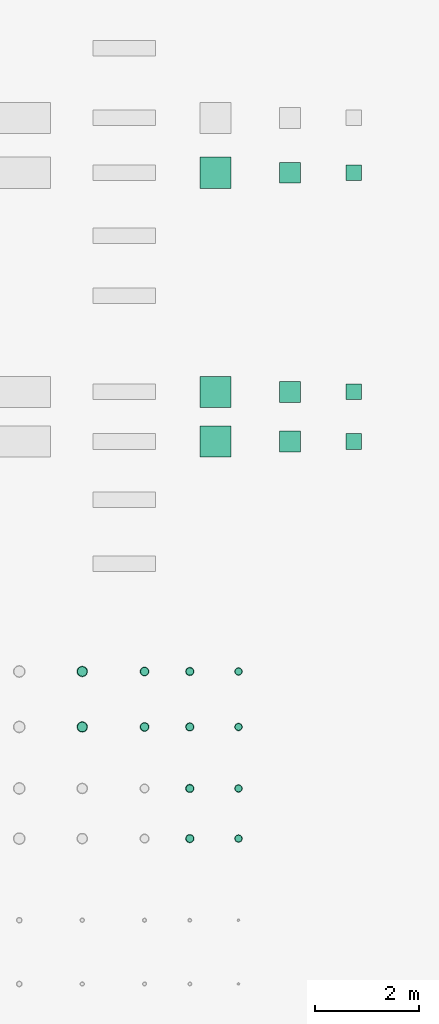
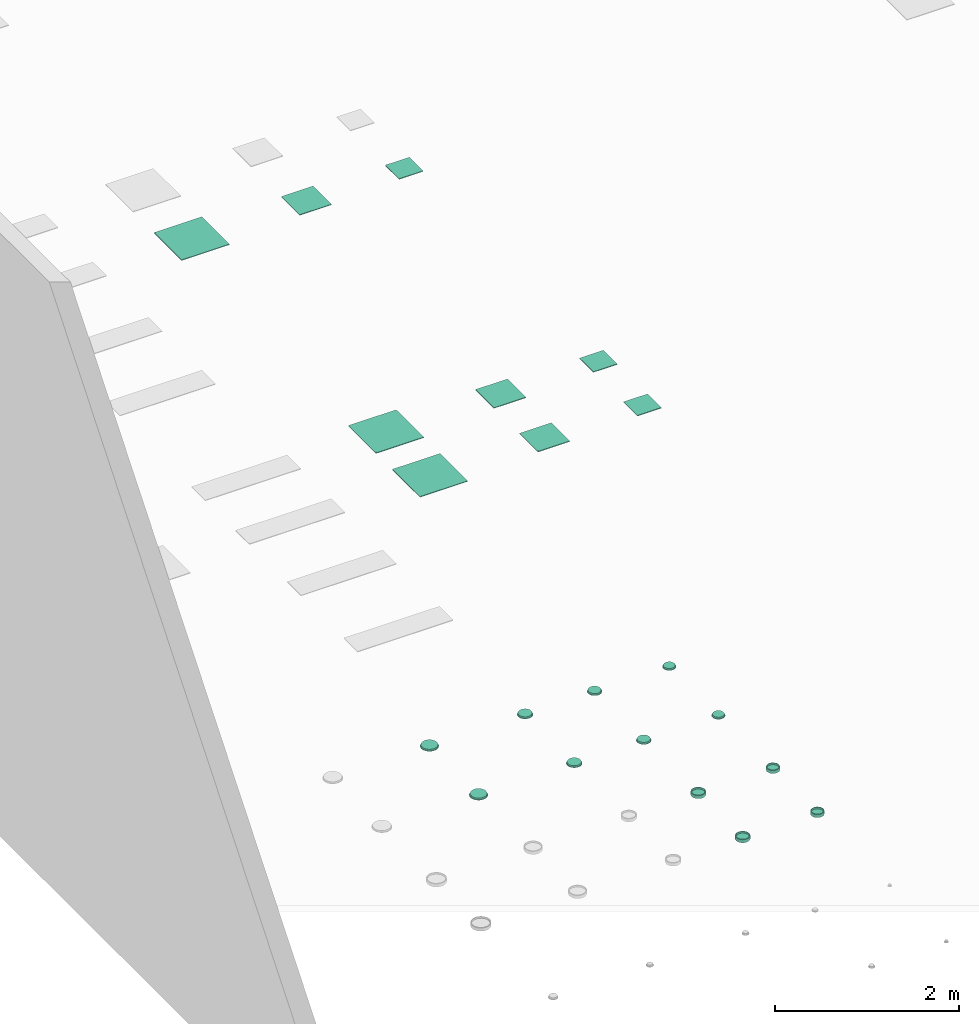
# One storey, part 18 of 197: 21 flow terminals.
"""IFC2X3 building model written with IfcOpenShell, lengths in metres."""

from ifc_helpers import new_model, entity, si_unit, converted_unit, direction, frame, frame_2d, origin, origin_2d_with_axis, place, context, subcontext, project, spatial, polyline, rectangle, circle, hollow_circle, outline, extrude, source, transform, mapped, material, type_object, type_shapes, element, save


model = new_model("IFC2X3")

# Units and contexts
model_context = context("Model", 3, precision=1e-05, world=origin(), true_north=direction((6.123031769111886e-17, 1.0)))
body_context = subcontext(model_context, "Body", "Model", "MODEL_VIEW")
ifc_project = project(units=[si_unit("LENGTHUNIT", "METRE"), converted_unit("PLANEANGLEUNIT", "DEGREE", entity("IfcPlaneAngleMeasure", 0.017453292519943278), si_unit("PLANEANGLEUNIT", "RADIAN"), dimensions=[0, 0, 0, 0, 0, 0, 0]), si_unit("AREAUNIT", "SQUARE_METRE")], contexts=[model_context])

# Site, building, storey
site_placement = place(None, origin())
site = spatial("IfcSite", under=ifc_project, at=site_placement, Name="Default", CompositionType="ELEMENT")
building_placement = place(site_placement, origin())
building = spatial("IfcBuilding", under=site, at=building_placement, CompositionType="ELEMENT")
storey_placement = place(building_placement, origin())
storey = spatial("IfcBuildingStorey", under=building, at=storey_placement, Name="Niveau 0", CompositionType="ELEMENT", Elevation=0.0)

# Flow terminals
ifc_material = material(Name="<Unnamed>")
light_fixture_type_1 = type_object("IfcLightFixtureType", Name="Pavé LED encastré_saillie_suspendu:SAILLIE DALI - 300X300", PredefinedType="NOTDEFINED", material=ifc_material)
shared_shape_1 = source(origin(), body_context, "Body", "SweptSolid", [
    extrude(rectangle(XDim=0.26000000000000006, YDim=0.26, at=origin_2d_with_axis()), frame((0.0, 0.0, 1.5013367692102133), z_axis=(0.0, 0.0, 1.0), x_axis=(-1.0, 0.0, 0.0)), (0.0, 0.0, 1.0), 0.008663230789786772),
    extrude(outline(polyline([(-0.15000000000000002, -0.15), (0.15000000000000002, -0.15), (0.15000000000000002, 0.15), (-0.15000000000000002, 0.15), (-0.15000000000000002, -0.15)]), holes=[polyline([(0.13000000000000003, -0.13), (-0.13000000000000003, -0.13), (-0.13000000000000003, 0.13), (0.13000000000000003, 0.13), (0.13000000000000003, -0.13)])]), frame((0.0, 0.0, 1.499999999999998), z_axis=(0.0, 0.0, 1.0), x_axis=(-1.0, 0.0, 0.0)), (0.0, 0.0, 1.0), 0.010000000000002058),
    extrude(circle(Radius=0.0014999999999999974, at=origin_2d_with_axis()), frame((0.1399999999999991, -0.14000000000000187, 1.51)), (0.0, 0.0, 1.0), 0.0010000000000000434),
    extrude(circle(Radius=0.0014999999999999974, at=origin_2d_with_axis()), frame((0.1399999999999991, 0.13999999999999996, 1.51)), (0.0, 0.0, 1.0), 0.0010000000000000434),
    extrude(circle(Radius=0.0014999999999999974, at=origin_2d_with_axis()), frame((-0.14000000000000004, 0.13999999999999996, 1.51)), (0.0, 0.0, 1.0), 0.0010000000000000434),
    extrude(circle(Radius=0.0014999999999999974, at=origin_2d_with_axis()), frame((-0.14000000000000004, -0.14000000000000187, 1.51)), (0.0, 0.0, 1.0), 0.0010000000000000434),
])
type_shapes(light_fixture_type_1, [shared_shape_1])
flow_terminal_1_placement = place(storey_placement, frame((-531.5807105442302, 41.83535524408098, 0.0)))
element("IfcFlowTerminal", 1, at=flow_terminal_1_placement, inside=storey, type_object=light_fixture_type_1, material=ifc_material, Name="Pavé LED encastré_saillie_suspendu:SAILLIE DALI - 300X300", ObjectType="Pavé LED encastré_saillie_suspendu:SAILLIE DALI - 300X300", context=body_context, shape_type="MappedRepresentation", body=[
    mapped(shared_shape_1, transform((0.0, 0.0, 0.0), scale=1.0)),
])
light_fixture_type_2 = type_object("IfcLightFixtureType", Name="Pavé LED encastré_saillie_suspendu:SAILLIE DALI - 400X400", PredefinedType="NOTDEFINED", material=ifc_material)
shared_shape_2 = source(origin(), body_context, "Body", "SweptSolid", [
    extrude(rectangle(XDim=0.36, YDim=0.36, at=origin_2d_with_axis()), frame((0.0, 0.0, 1.5013367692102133), z_axis=(0.0, 0.0, 1.0), x_axis=(-1.0, 0.0, 0.0)), (0.0, 0.0, 1.0), 0.008663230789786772),
    extrude(outline(polyline([(-0.19999999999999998, -0.19999999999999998), (0.19999999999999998, -0.19999999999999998), (0.19999999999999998, 0.19999999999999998), (-0.19999999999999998, 0.19999999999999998), (-0.19999999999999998, -0.19999999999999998)]), holes=[polyline([(0.18, -0.18), (-0.18, -0.18), (-0.18, 0.18), (0.18, 0.18), (0.18, -0.18)])]), frame((0.0, 0.0, 1.499999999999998), z_axis=(0.0, 0.0, 1.0), x_axis=(-1.0, 0.0, 0.0)), (0.0, 0.0, 1.0), 0.010000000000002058),
    extrude(circle(Radius=0.0014999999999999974, at=origin_2d_with_axis()), frame((0.1899999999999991, -0.19000000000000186, 1.51)), (0.0, 0.0, 1.0), 0.0010000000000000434),
    extrude(circle(Radius=0.0014999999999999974, at=origin_2d_with_axis()), frame((0.1899999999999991, 0.18999999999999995, 1.51)), (0.0, 0.0, 1.0), 0.0010000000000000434),
    extrude(circle(Radius=0.0014999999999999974, at=origin_2d_with_axis()), frame((-0.19000000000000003, 0.18999999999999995, 1.51)), (0.0, 0.0, 1.0), 0.0010000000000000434),
    extrude(circle(Radius=0.0014999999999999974, at=origin_2d_with_axis()), frame((-0.19000000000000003, -0.19000000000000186, 1.51)), (0.0, 0.0, 1.0), 0.0010000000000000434),
])
type_shapes(light_fixture_type_2, [shared_shape_2])
flow_terminal_2_placement = place(storey_placement, frame((-532.8067105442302, 41.83535524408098, 0.0)))
element("IfcFlowTerminal", 2, at=flow_terminal_2_placement, inside=storey, type_object=light_fixture_type_2, material=ifc_material, Name="Pavé LED encastré_saillie_suspendu:SAILLIE DALI - 400X400", ObjectType="Pavé LED encastré_saillie_suspendu:SAILLIE DALI - 400X400", context=body_context, shape_type="MappedRepresentation", body=[
    mapped(shared_shape_2, transform((0.0, 0.0, 0.0), scale=1.0)),
])
light_fixture_type_3 = type_object("IfcLightFixtureType", Name="Pavé LED encastré_saillie_suspendu:SAILLIE DALI - 600X600", PredefinedType="NOTDEFINED", material=ifc_material)
shared_shape_3 = source(origin(), body_context, "Body", "SweptSolid", [
    extrude(rectangle(XDim=0.56, YDim=0.56, at=origin_2d_with_axis()), frame((0.0, 0.0, 1.5013367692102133), z_axis=(0.0, 0.0, 1.0), x_axis=(-1.0, 0.0, 0.0)), (0.0, 0.0, 1.0), 0.008663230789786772),
    extrude(outline(polyline([(-0.30000000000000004, -0.30000000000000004), (0.30000000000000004, -0.30000000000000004), (0.30000000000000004, 0.30000000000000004), (-0.30000000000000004, 0.30000000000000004), (-0.30000000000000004, -0.30000000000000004)]), holes=[polyline([(0.28, -0.28), (-0.28, -0.28), (-0.28, 0.28), (0.28, 0.28), (0.28, -0.28)])]), frame((0.0, 0.0, 1.499999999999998), z_axis=(0.0, 0.0, 1.0), x_axis=(-1.0, 0.0, 0.0)), (0.0, 0.0, 1.0), 0.010000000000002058),
    extrude(circle(Radius=0.0014999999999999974, at=origin_2d_with_axis()), frame((0.28999999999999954, -0.2900000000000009, 1.51)), (0.0, 0.0, 1.0), 0.0010000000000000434),
    extrude(circle(Radius=0.0014999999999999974, at=origin_2d_with_axis()), frame((0.28999999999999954, 0.2900000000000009, 1.51)), (0.0, 0.0, 1.0), 0.0010000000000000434),
    extrude(circle(Radius=0.0014999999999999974, at=origin_2d_with_axis()), frame((-0.28999999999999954, 0.2900000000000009, 1.51)), (0.0, 0.0, 1.0), 0.0010000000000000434),
    extrude(circle(Radius=0.0014999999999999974, at=origin_2d_with_axis()), frame((-0.28999999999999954, -0.2900000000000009, 1.51)), (0.0, 0.0, 1.0), 0.0010000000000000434),
])
type_shapes(light_fixture_type_3, [shared_shape_3])
flow_terminal_3_placement = place(storey_placement, frame((-534.2447105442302, 41.83535524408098, 0.0)))
element("IfcFlowTerminal", 3, at=flow_terminal_3_placement, inside=storey, type_object=light_fixture_type_3, material=ifc_material, Name="Pavé LED encastré_saillie_suspendu:SAILLIE DALI - 600X600", ObjectType="Pavé LED encastré_saillie_suspendu:SAILLIE DALI - 600X600", context=body_context, shape_type="MappedRepresentation", body=[
    mapped(shared_shape_3, transform((0.0, 0.0, 0.0), scale=1.0)),
])
light_fixture_type_4 = type_object("IfcLightFixtureType", Name="Pavé LED encastré_saillie_suspendu:SUSPENDU - 300X300", PredefinedType="NOTDEFINED", material=ifc_material)
shared_shape_4 = source(origin(), body_context, "Body", "SweptSolid", [
    extrude(rectangle(XDim=0.26000000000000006, YDim=0.26, at=origin_2d_with_axis()), frame((0.0, 0.0, 1.5013367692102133), z_axis=(0.0, 0.0, 1.0), x_axis=(-1.0, 0.0, 0.0)), (0.0, 0.0, 1.0), 0.008663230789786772),
    extrude(outline(polyline([(-0.15000000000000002, -0.15), (0.15000000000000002, -0.15), (0.15000000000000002, 0.15), (-0.15000000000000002, 0.15), (-0.15000000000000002, -0.15)]), holes=[polyline([(0.13000000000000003, -0.13), (-0.13000000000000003, -0.13), (-0.13000000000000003, 0.13), (0.13000000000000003, 0.13), (0.13000000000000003, -0.13)])]), frame((0.0, 0.0, 1.499999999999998), z_axis=(0.0, 0.0, 1.0), x_axis=(-1.0, 0.0, 0.0)), (0.0, 0.0, 1.0), 0.010000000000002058),
    extrude(circle(Radius=0.0014999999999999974, at=origin_2d_with_axis()), frame((0.1399999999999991, -0.14000000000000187, 1.51)), (0.0, 0.0, 1.0), 0.0010000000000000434),
    extrude(circle(Radius=0.0014999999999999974, at=origin_2d_with_axis()), frame((0.1399999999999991, 0.13999999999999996, 1.51)), (0.0, 0.0, 1.0), 0.0010000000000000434),
    extrude(circle(Radius=0.0014999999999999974, at=origin_2d_with_axis()), frame((-0.14000000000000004, 0.13999999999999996, 1.51)), (0.0, 0.0, 1.0), 0.0010000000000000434),
    extrude(circle(Radius=0.0014999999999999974, at=origin_2d_with_axis()), frame((-0.14000000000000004, -0.14000000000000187, 1.51)), (0.0, 0.0, 1.0), 0.0010000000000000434),
])
type_shapes(light_fixture_type_4, [shared_shape_4])
flow_terminal_4_placement = place(storey_placement, frame((-531.5807105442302, 37.61435524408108, 0.0)))
element("IfcFlowTerminal", 4, at=flow_terminal_4_placement, inside=storey, type_object=light_fixture_type_4, material=ifc_material, Name="Pavé LED encastré_saillie_suspendu:SUSPENDU - 300X300", ObjectType="Pavé LED encastré_saillie_suspendu:SUSPENDU - 300X300", context=body_context, shape_type="MappedRepresentation", body=[
    mapped(shared_shape_4, transform((0.0, 0.0, 0.0), scale=1.0)),
])
light_fixture_type_5 = type_object("IfcLightFixtureType", Name="Pavé LED encastré_saillie_suspendu:SUSPENDU - 400X400", PredefinedType="NOTDEFINED", material=ifc_material)
shared_shape_5 = source(origin(), body_context, "Body", "SweptSolid", [
    extrude(rectangle(XDim=0.36, YDim=0.36, at=origin_2d_with_axis()), frame((0.0, 0.0, 1.5013367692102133), z_axis=(0.0, 0.0, 1.0), x_axis=(-1.0, 0.0, 0.0)), (0.0, 0.0, 1.0), 0.008663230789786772),
    extrude(outline(polyline([(-0.19999999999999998, -0.19999999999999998), (0.19999999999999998, -0.19999999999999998), (0.19999999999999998, 0.19999999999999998), (-0.19999999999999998, 0.19999999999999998), (-0.19999999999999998, -0.19999999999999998)]), holes=[polyline([(0.18, -0.18), (-0.18, -0.18), (-0.18, 0.18), (0.18, 0.18), (0.18, -0.18)])]), frame((0.0, 0.0, 1.499999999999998), z_axis=(0.0, 0.0, 1.0), x_axis=(-1.0, 0.0, 0.0)), (0.0, 0.0, 1.0), 0.010000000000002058),
    extrude(circle(Radius=0.0014999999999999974, at=origin_2d_with_axis()), frame((0.1899999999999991, -0.19000000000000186, 1.51)), (0.0, 0.0, 1.0), 0.0010000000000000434),
    extrude(circle(Radius=0.0014999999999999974, at=origin_2d_with_axis()), frame((0.1899999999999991, 0.18999999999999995, 1.51)), (0.0, 0.0, 1.0), 0.0010000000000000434),
    extrude(circle(Radius=0.0014999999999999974, at=origin_2d_with_axis()), frame((-0.19000000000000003, 0.18999999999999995, 1.51)), (0.0, 0.0, 1.0), 0.0010000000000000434),
    extrude(circle(Radius=0.0014999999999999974, at=origin_2d_with_axis()), frame((-0.19000000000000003, -0.19000000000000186, 1.51)), (0.0, 0.0, 1.0), 0.0010000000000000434),
])
type_shapes(light_fixture_type_5, [shared_shape_5])
flow_terminal_5_placement = place(storey_placement, frame((-532.8067105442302, 37.61435524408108, 0.0)))
element("IfcFlowTerminal", 5, at=flow_terminal_5_placement, inside=storey, type_object=light_fixture_type_5, material=ifc_material, Name="Pavé LED encastré_saillie_suspendu:SUSPENDU - 400X400", ObjectType="Pavé LED encastré_saillie_suspendu:SUSPENDU - 400X400", context=body_context, shape_type="MappedRepresentation", body=[
    mapped(shared_shape_5, transform((0.0, 0.0, 0.0), scale=1.0)),
])
light_fixture_type_6 = type_object("IfcLightFixtureType", Name="Pavé LED encastré_saillie_suspendu:SUSPENDU - 600X600", PredefinedType="NOTDEFINED", material=ifc_material)
shared_shape_6 = source(origin(), body_context, "Body", "SweptSolid", [
    extrude(rectangle(XDim=0.56, YDim=0.56, at=origin_2d_with_axis()), frame((0.0, 0.0, 1.5013367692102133), z_axis=(0.0, 0.0, 1.0), x_axis=(-1.0, 0.0, 0.0)), (0.0, 0.0, 1.0), 0.008663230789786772),
    extrude(outline(polyline([(-0.30000000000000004, -0.30000000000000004), (0.30000000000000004, -0.30000000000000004), (0.30000000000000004, 0.30000000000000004), (-0.30000000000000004, 0.30000000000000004), (-0.30000000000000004, -0.30000000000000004)]), holes=[polyline([(0.28, -0.28), (-0.28, -0.28), (-0.28, 0.28), (0.28, 0.28), (0.28, -0.28)])]), frame((0.0, 0.0, 1.499999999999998), z_axis=(0.0, 0.0, 1.0), x_axis=(-1.0, 0.0, 0.0)), (0.0, 0.0, 1.0), 0.010000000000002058),
    extrude(circle(Radius=0.0014999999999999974, at=origin_2d_with_axis()), frame((0.28999999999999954, -0.2900000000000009, 1.51)), (0.0, 0.0, 1.0), 0.0010000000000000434),
    extrude(circle(Radius=0.0014999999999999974, at=origin_2d_with_axis()), frame((0.28999999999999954, 0.2900000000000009, 1.51)), (0.0, 0.0, 1.0), 0.0010000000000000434),
    extrude(circle(Radius=0.0014999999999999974, at=origin_2d_with_axis()), frame((-0.28999999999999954, 0.2900000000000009, 1.51)), (0.0, 0.0, 1.0), 0.0010000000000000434),
    extrude(circle(Radius=0.0014999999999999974, at=origin_2d_with_axis()), frame((-0.28999999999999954, -0.2900000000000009, 1.51)), (0.0, 0.0, 1.0), 0.0010000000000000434),
])
type_shapes(light_fixture_type_6, [shared_shape_6])
flow_terminal_6_placement = place(storey_placement, frame((-534.2447105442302, 37.61435524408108, 0.0)))
element("IfcFlowTerminal", 6, at=flow_terminal_6_placement, inside=storey, type_object=light_fixture_type_6, material=ifc_material, Name="Pavé LED encastré_saillie_suspendu:SUSPENDU - 600X600", ObjectType="Pavé LED encastré_saillie_suspendu:SUSPENDU - 600X600", context=body_context, shape_type="MappedRepresentation", body=[
    mapped(shared_shape_6, transform((0.0, 0.0, 0.0), scale=1.0)),
])
light_fixture_type_7 = type_object("IfcLightFixtureType", Name="Pavé LED encastré_saillie_suspendu:SUSPENDU DALI - 300X300", PredefinedType="NOTDEFINED", material=ifc_material)
shared_shape_7 = source(origin(), body_context, "Body", "SweptSolid", [
    extrude(rectangle(XDim=0.26000000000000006, YDim=0.26, at=origin_2d_with_axis()), frame((0.0, 0.0, 1.5013367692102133), z_axis=(0.0, 0.0, 1.0), x_axis=(-1.0, 0.0, 0.0)), (0.0, 0.0, 1.0), 0.008663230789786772),
    extrude(outline(polyline([(-0.15000000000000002, -0.15), (0.15000000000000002, -0.15), (0.15000000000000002, 0.15), (-0.15000000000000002, 0.15), (-0.15000000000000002, -0.15)]), holes=[polyline([(0.13000000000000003, -0.13), (-0.13000000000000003, -0.13), (-0.13000000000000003, 0.13), (0.13000000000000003, 0.13), (0.13000000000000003, -0.13)])]), frame((0.0, 0.0, 1.499999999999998), z_axis=(0.0, 0.0, 1.0), x_axis=(-1.0, 0.0, 0.0)), (0.0, 0.0, 1.0), 0.010000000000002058),
    extrude(circle(Radius=0.0014999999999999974, at=origin_2d_with_axis()), frame((0.1399999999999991, -0.14000000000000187, 1.51)), (0.0, 0.0, 1.0), 0.0010000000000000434),
    extrude(circle(Radius=0.0014999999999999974, at=origin_2d_with_axis()), frame((0.1399999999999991, 0.13999999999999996, 1.51)), (0.0, 0.0, 1.0), 0.0010000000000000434),
    extrude(circle(Radius=0.0014999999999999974, at=origin_2d_with_axis()), frame((-0.14000000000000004, 0.13999999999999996, 1.51)), (0.0, 0.0, 1.0), 0.0010000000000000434),
    extrude(circle(Radius=0.0014999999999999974, at=origin_2d_with_axis()), frame((-0.14000000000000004, -0.14000000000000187, 1.51)), (0.0, 0.0, 1.0), 0.0010000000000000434),
])
type_shapes(light_fixture_type_7, [shared_shape_7])
flow_terminal_7_placement = place(storey_placement, frame((-531.5807105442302, 36.65835524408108, 0.0)))
element("IfcFlowTerminal", 7, at=flow_terminal_7_placement, inside=storey, type_object=light_fixture_type_7, material=ifc_material, Name="Pavé LED encastré_saillie_suspendu:SUSPENDU DALI - 300X300", ObjectType="Pavé LED encastré_saillie_suspendu:SUSPENDU DALI - 300X300", context=body_context, shape_type="MappedRepresentation", body=[
    mapped(shared_shape_7, transform((0.0, 0.0, 0.0), scale=1.0)),
])
light_fixture_type_8 = type_object("IfcLightFixtureType", Name="Pavé LED encastré_saillie_suspendu:SUSPENDU DALI - 400X400", PredefinedType="NOTDEFINED", material=ifc_material)
shared_shape_8 = source(origin(), body_context, "Body", "SweptSolid", [
    extrude(rectangle(XDim=0.36, YDim=0.36, at=origin_2d_with_axis()), frame((0.0, 0.0, 1.5013367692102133), z_axis=(0.0, 0.0, 1.0), x_axis=(-1.0, 0.0, 0.0)), (0.0, 0.0, 1.0), 0.008663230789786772),
    extrude(outline(polyline([(-0.19999999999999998, -0.19999999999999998), (0.19999999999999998, -0.19999999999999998), (0.19999999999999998, 0.19999999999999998), (-0.19999999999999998, 0.19999999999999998), (-0.19999999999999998, -0.19999999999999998)]), holes=[polyline([(0.18, -0.18), (-0.18, -0.18), (-0.18, 0.18), (0.18, 0.18), (0.18, -0.18)])]), frame((0.0, 0.0, 1.499999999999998), z_axis=(0.0, 0.0, 1.0), x_axis=(-1.0, 0.0, 0.0)), (0.0, 0.0, 1.0), 0.010000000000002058),
    extrude(circle(Radius=0.0014999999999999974, at=origin_2d_with_axis()), frame((0.1899999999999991, -0.19000000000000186, 1.51)), (0.0, 0.0, 1.0), 0.0010000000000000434),
    extrude(circle(Radius=0.0014999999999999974, at=origin_2d_with_axis()), frame((0.1899999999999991, 0.18999999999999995, 1.51)), (0.0, 0.0, 1.0), 0.0010000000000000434),
    extrude(circle(Radius=0.0014999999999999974, at=origin_2d_with_axis()), frame((-0.19000000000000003, 0.18999999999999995, 1.51)), (0.0, 0.0, 1.0), 0.0010000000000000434),
    extrude(circle(Radius=0.0014999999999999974, at=origin_2d_with_axis()), frame((-0.19000000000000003, -0.19000000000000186, 1.51)), (0.0, 0.0, 1.0), 0.0010000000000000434),
])
type_shapes(light_fixture_type_8, [shared_shape_8])
flow_terminal_8_placement = place(storey_placement, frame((-532.8067105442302, 36.65835524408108, 0.0)))
element("IfcFlowTerminal", 8, at=flow_terminal_8_placement, inside=storey, type_object=light_fixture_type_8, material=ifc_material, Name="Pavé LED encastré_saillie_suspendu:SUSPENDU DALI - 400X400", ObjectType="Pavé LED encastré_saillie_suspendu:SUSPENDU DALI - 400X400", context=body_context, shape_type="MappedRepresentation", body=[
    mapped(shared_shape_8, transform((0.0, 0.0, 0.0), scale=1.0)),
])
light_fixture_type_9 = type_object("IfcLightFixtureType", Name="Pavé LED encastré_saillie_suspendu:SUSPENDU DALI - 600X600", PredefinedType="NOTDEFINED", material=ifc_material)
shared_shape_9 = source(origin(), body_context, "Body", "SweptSolid", [
    extrude(rectangle(XDim=0.56, YDim=0.56, at=origin_2d_with_axis()), frame((0.0, 0.0, 1.5013367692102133), z_axis=(0.0, 0.0, 1.0), x_axis=(-1.0, 0.0, 0.0)), (0.0, 0.0, 1.0), 0.008663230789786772),
    extrude(outline(polyline([(-0.30000000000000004, -0.30000000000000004), (0.30000000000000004, -0.30000000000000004), (0.30000000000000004, 0.30000000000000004), (-0.30000000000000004, 0.30000000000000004), (-0.30000000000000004, -0.30000000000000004)]), holes=[polyline([(0.28, -0.28), (-0.28, -0.28), (-0.28, 0.28), (0.28, 0.28), (0.28, -0.28)])]), frame((0.0, 0.0, 1.499999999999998), z_axis=(0.0, 0.0, 1.0), x_axis=(-1.0, 0.0, 0.0)), (0.0, 0.0, 1.0), 0.010000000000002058),
    extrude(circle(Radius=0.0014999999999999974, at=origin_2d_with_axis()), frame((0.28999999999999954, -0.2900000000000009, 1.51)), (0.0, 0.0, 1.0), 0.0010000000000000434),
    extrude(circle(Radius=0.0014999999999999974, at=origin_2d_with_axis()), frame((0.28999999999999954, 0.2900000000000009, 1.51)), (0.0, 0.0, 1.0), 0.0010000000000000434),
    extrude(circle(Radius=0.0014999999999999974, at=origin_2d_with_axis()), frame((-0.28999999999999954, 0.2900000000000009, 1.51)), (0.0, 0.0, 1.0), 0.0010000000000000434),
    extrude(circle(Radius=0.0014999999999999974, at=origin_2d_with_axis()), frame((-0.28999999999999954, -0.2900000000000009, 1.51)), (0.0, 0.0, 1.0), 0.0010000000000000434),
])
type_shapes(light_fixture_type_9, [shared_shape_9])
flow_terminal_9_placement = place(storey_placement, frame((-534.2447105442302, 36.65835524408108, 0.0)))
element("IfcFlowTerminal", 9, at=flow_terminal_9_placement, inside=storey, type_object=light_fixture_type_9, material=ifc_material, Name="Pavé LED encastré_saillie_suspendu:SUSPENDU DALI - 600X600", ObjectType="Pavé LED encastré_saillie_suspendu:SUSPENDU DALI - 600X600", context=body_context, shape_type="MappedRepresentation", body=[
    mapped(shared_shape_9, transform((0.0, 0.0, 0.0), scale=1.0)),
])
light_fixture_type_10 = type_object("IfcLightFixtureType", Name="Downlight encastré_saillie:ENCASTRE - Ø205", PredefinedType="NOTDEFINED", material=ifc_material)
shared_shape_10 = source(origin(), body_context, "Body", "SweptSolid", [
    extrude(hollow_circle(Radius=0.1025, WallThickness=0.009999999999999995, at=frame_2d((-1.6081382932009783e-18, -1.8835289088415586e-16), x_axis=(1.0, 0.0))), frame((0.0, 0.0, 1.499), z_axis=(0.0, 0.0, 1.0), x_axis=(-1.0, 0.0, 0.0)), (0.0, 0.0, 1.0), 0.0010000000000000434),
    extrude(circle(Radius=0.0925, at=frame_2d((1.6081382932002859e-18, -1.4943787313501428e-16), x_axis=(1.0, 0.0))), frame((0.0, 0.0, 1.5000000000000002)), (0.0, 0.0, 1.0), 0.020000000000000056),
])
type_shapes(light_fixture_type_10, [shared_shape_10])
flow_terminal_10_placement = place(storey_placement, frame((-536.8097105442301, 32.229355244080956, 0.0)))
element("IfcFlowTerminal", 10, at=flow_terminal_10_placement, inside=storey, type_object=light_fixture_type_10, material=ifc_material, Name="Downlight encastré_saillie:ENCASTRE - Ø205", ObjectType="Downlight encastré_saillie:ENCASTRE - Ø205", context=body_context, shape_type="MappedRepresentation", body=[
    mapped(shared_shape_10, transform((0.0, 0.0, 0.0), scale=1.0)),
])
light_fixture_type_11 = type_object("IfcLightFixtureType", Name="Downlight encastré_saillie:ENCASTRE - Ø175", PredefinedType="NOTDEFINED", material=ifc_material)
shared_shape_11 = source(origin(), body_context, "Body", "SweptSolid", [
    extrude(hollow_circle(Radius=0.0875, WallThickness=0.009999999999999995, at=frame_2d((-1.608138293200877e-18, -1.6078905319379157e-16), x_axis=(1.0, 0.0))), frame((0.0, 0.0, 1.499), z_axis=(0.0, 0.0, 1.0), x_axis=(-1.0, 0.0, 0.0)), (0.0, 0.0, 1.0), 0.0010000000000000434),
    extrude(circle(Radius=0.0775, at=frame_2d((1.6081382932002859e-18, -1.2520470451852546e-16), x_axis=(1.0, 0.0))), frame((0.0, 0.0, 1.5000000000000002)), (0.0, 0.0, 1.0), 0.020000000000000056),
])
type_shapes(light_fixture_type_11, [shared_shape_11])
flow_terminal_11_placement = place(storey_placement, frame((-535.6097105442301, 32.229355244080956, 0.0)))
element("IfcFlowTerminal", 11, at=flow_terminal_11_placement, inside=storey, type_object=light_fixture_type_11, material=ifc_material, Name="Downlight encastré_saillie:ENCASTRE - Ø175", ObjectType="Downlight encastré_saillie:ENCASTRE - Ø175", context=body_context, shape_type="MappedRepresentation", body=[
    mapped(shared_shape_11, transform((0.0, 0.0, 0.0), scale=1.0)),
])
light_fixture_type_12 = type_object("IfcLightFixtureType", Name="Downlight encastré_saillie:ENCASTRE - Ø165", PredefinedType="NOTDEFINED", material=ifc_material)
shared_shape_12 = source(origin(), body_context, "Body", "SweptSolid", [
    extrude(hollow_circle(Radius=0.0825, WallThickness=0.009999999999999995, at=frame_2d((-1.6081382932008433e-18, -1.5160110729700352e-16), x_axis=(1.0, 0.0))), frame((0.0, 0.0, 1.499), z_axis=(0.0, 0.0, 1.0), x_axis=(-1.0, 0.0, 0.0)), (0.0, 0.0, 1.0), 0.0010000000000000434),
    extrude(circle(Radius=0.0725, at=frame_2d((1.6081382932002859e-18, -1.1712698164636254e-16), x_axis=(1.0, 0.0))), frame((0.0, 0.0, 1.5000000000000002)), (0.0, 0.0, 1.0), 0.020000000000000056),
])
type_shapes(light_fixture_type_12, [shared_shape_12])
flow_terminal_12_placement = place(storey_placement, frame((-534.7377105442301, 32.229355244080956, 0.0)))
element("IfcFlowTerminal", 12, at=flow_terminal_12_placement, inside=storey, type_object=light_fixture_type_12, material=ifc_material, Name="Downlight encastré_saillie:ENCASTRE - Ø165", ObjectType="Downlight encastré_saillie:ENCASTRE - Ø165", context=body_context, shape_type="MappedRepresentation", body=[
    mapped(shared_shape_12, transform((0.0, 0.0, 0.0), scale=1.0)),
])
light_fixture_type_13 = type_object("IfcLightFixtureType", Name="Downlight encastré_saillie:ENCASTRE - Ø150", PredefinedType="NOTDEFINED", material=ifc_material)
shared_shape_13 = source(origin(), body_context, "Body", "SweptSolid", [
    extrude(hollow_circle(Radius=0.075, WallThickness=0.009999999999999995, at=frame_2d((-1.6081382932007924e-18, -1.3781918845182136e-16), x_axis=(1.0, 0.0))), frame((0.0, 0.0, 1.499), z_axis=(0.0, 0.0, 1.0), x_axis=(-1.0, 0.0, 0.0)), (0.0, 0.0, 1.0), 0.0010000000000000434),
    extrude(circle(Radius=0.065, at=frame_2d((1.6081382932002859e-18, -1.0501039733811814e-16), x_axis=(1.0, 0.0))), frame((0.0, 0.0, 1.5000000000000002)), (0.0, 0.0, 1.0), 0.020000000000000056),
])
type_shapes(light_fixture_type_13, [shared_shape_13])
flow_terminal_13_placement = place(storey_placement, frame((-533.8007105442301, 32.229355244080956, 0.0)))
element("IfcFlowTerminal", 13, at=flow_terminal_13_placement, inside=storey, type_object=light_fixture_type_13, material=ifc_material, Name="Downlight encastré_saillie:ENCASTRE - Ø150", ObjectType="Downlight encastré_saillie:ENCASTRE - Ø150", context=body_context, shape_type="MappedRepresentation", body=[
    mapped(shared_shape_13, transform((0.0, 0.0, 0.0), scale=1.0)),
])
light_fixture_type_14 = type_object("IfcLightFixtureType", Name="Downlight encastré_saillie:ENCASTRE DALI - Ø205", PredefinedType="NOTDEFINED", material=ifc_material)
shared_shape_14 = source(origin(), body_context, "Body", "SweptSolid", [
    extrude(hollow_circle(Radius=0.1025, WallThickness=0.009999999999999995, at=frame_2d((-1.6081382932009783e-18, -1.8835289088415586e-16), x_axis=(1.0, 0.0))), frame((0.0, 0.0, 1.499), z_axis=(0.0, 0.0, 1.0), x_axis=(-1.0, 0.0, 0.0)), (0.0, 0.0, 1.0), 0.0010000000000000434),
    extrude(circle(Radius=0.0925, at=frame_2d((1.6081382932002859e-18, -1.4943787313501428e-16), x_axis=(1.0, 0.0))), frame((0.0, 0.0, 1.5000000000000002)), (0.0, 0.0, 1.0), 0.020000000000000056),
])
type_shapes(light_fixture_type_14, [shared_shape_14])
flow_terminal_14_placement = place(storey_placement, frame((-536.8097105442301, 31.16135524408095, 0.0)))
element("IfcFlowTerminal", 14, at=flow_terminal_14_placement, inside=storey, type_object=light_fixture_type_14, material=ifc_material, Name="Downlight encastré_saillie:ENCASTRE DALI - Ø205", ObjectType="Downlight encastré_saillie:ENCASTRE DALI - Ø205", context=body_context, shape_type="MappedRepresentation", body=[
    mapped(shared_shape_14, transform((0.0, 0.0, 0.0), scale=1.0)),
])
light_fixture_type_15 = type_object("IfcLightFixtureType", Name="Downlight encastré_saillie:ENCASTRE DALI - Ø175", PredefinedType="NOTDEFINED", material=ifc_material)
shared_shape_15 = source(origin(), body_context, "Body", "SweptSolid", [
    extrude(hollow_circle(Radius=0.0875, WallThickness=0.009999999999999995, at=frame_2d((-1.608138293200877e-18, -1.6078905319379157e-16), x_axis=(1.0, 0.0))), frame((0.0, 0.0, 1.499), z_axis=(0.0, 0.0, 1.0), x_axis=(-1.0, 0.0, 0.0)), (0.0, 0.0, 1.0), 0.0010000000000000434),
    extrude(circle(Radius=0.0775, at=frame_2d((1.6081382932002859e-18, -1.2520470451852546e-16), x_axis=(1.0, 0.0))), frame((0.0, 0.0, 1.5000000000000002)), (0.0, 0.0, 1.0), 0.020000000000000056),
])
type_shapes(light_fixture_type_15, [shared_shape_15])
flow_terminal_15_placement = place(storey_placement, frame((-535.6097105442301, 31.16135524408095, 0.0)))
element("IfcFlowTerminal", 15, at=flow_terminal_15_placement, inside=storey, type_object=light_fixture_type_15, material=ifc_material, Name="Downlight encastré_saillie:ENCASTRE DALI - Ø175", ObjectType="Downlight encastré_saillie:ENCASTRE DALI - Ø175", context=body_context, shape_type="MappedRepresentation", body=[
    mapped(shared_shape_15, transform((0.0, 0.0, 0.0), scale=1.0)),
])
light_fixture_type_16 = type_object("IfcLightFixtureType", Name="Downlight encastré_saillie:ENCASTRE DALI - Ø165", PredefinedType="NOTDEFINED", material=ifc_material)
shared_shape_16 = source(origin(), body_context, "Body", "SweptSolid", [
    extrude(hollow_circle(Radius=0.0825, WallThickness=0.009999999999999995, at=frame_2d((-1.6081382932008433e-18, -1.5160110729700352e-16), x_axis=(1.0, 0.0))), frame((0.0, 0.0, 1.499), z_axis=(0.0, 0.0, 1.0), x_axis=(-1.0, 0.0, 0.0)), (0.0, 0.0, 1.0), 0.0010000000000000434),
    extrude(circle(Radius=0.0725, at=frame_2d((1.6081382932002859e-18, -1.1712698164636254e-16), x_axis=(1.0, 0.0))), frame((0.0, 0.0, 1.5000000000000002)), (0.0, 0.0, 1.0), 0.020000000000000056),
])
type_shapes(light_fixture_type_16, [shared_shape_16])
flow_terminal_16_placement = place(storey_placement, frame((-534.7377105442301, 31.16135524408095, 0.0)))
element("IfcFlowTerminal", 16, at=flow_terminal_16_placement, inside=storey, type_object=light_fixture_type_16, material=ifc_material, Name="Downlight encastré_saillie:ENCASTRE DALI - Ø165", ObjectType="Downlight encastré_saillie:ENCASTRE DALI - Ø165", context=body_context, shape_type="MappedRepresentation", body=[
    mapped(shared_shape_16, transform((0.0, 0.0, 0.0), scale=1.0)),
])
light_fixture_type_17 = type_object("IfcLightFixtureType", Name="Downlight encastré_saillie:ENCASTRE DALI - Ø150", PredefinedType="NOTDEFINED", material=ifc_material)
shared_shape_17 = source(origin(), body_context, "Body", "SweptSolid", [
    extrude(hollow_circle(Radius=0.075, WallThickness=0.009999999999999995, at=frame_2d((-1.6081382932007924e-18, -1.3781918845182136e-16), x_axis=(1.0, 0.0))), frame((0.0, 0.0, 1.499), z_axis=(0.0, 0.0, 1.0), x_axis=(-1.0, 0.0, 0.0)), (0.0, 0.0, 1.0), 0.0010000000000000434),
    extrude(circle(Radius=0.065, at=frame_2d((1.6081382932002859e-18, -1.0501039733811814e-16), x_axis=(1.0, 0.0))), frame((0.0, 0.0, 1.5000000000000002)), (0.0, 0.0, 1.0), 0.020000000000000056),
])
type_shapes(light_fixture_type_17, [shared_shape_17])
flow_terminal_17_placement = place(storey_placement, frame((-533.8007105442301, 31.16135524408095, 0.0)))
element("IfcFlowTerminal", 17, at=flow_terminal_17_placement, inside=storey, type_object=light_fixture_type_17, material=ifc_material, Name="Downlight encastré_saillie:ENCASTRE DALI - Ø150", ObjectType="Downlight encastré_saillie:ENCASTRE DALI - Ø150", context=body_context, shape_type="MappedRepresentation", body=[
    mapped(shared_shape_17, transform((0.0, 0.0, 0.0), scale=1.0)),
])
light_fixture_type_18 = type_object("IfcLightFixtureType", Name="Downlight encastré_saillie:SAILLIE - Ø150", PredefinedType="NOTDEFINED", material=ifc_material)
shared_shape_18 = source(origin(), body_context, "Body", "SweptSolid", [
    extrude(hollow_circle(Radius=0.075, WallThickness=0.009999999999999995, at=frame_2d((1.6081382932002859e-18, 1.3781918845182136e-16), x_axis=(1.0, 0.0))), frame((0.0, 0.0, 1.5000000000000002)), (0.0, 0.0, 1.0), 0.04000000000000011),
    extrude(hollow_circle(Radius=0.075, WallThickness=0.009999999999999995, at=frame_2d((-1.6081382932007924e-18, -1.3781918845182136e-16), x_axis=(1.0, 0.0))), frame((0.0, 0.0, 1.499), z_axis=(0.0, 0.0, 1.0), x_axis=(-1.0, 0.0, 0.0)), (0.0, 0.0, 1.0), 0.0010000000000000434),
    extrude(circle(Radius=0.065, at=frame_2d((1.6081382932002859e-18, -1.0501039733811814e-16), x_axis=(1.0, 0.0))), frame((0.0, 0.0, 1.5000000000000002)), (0.0, 0.0, 1.0), 0.020000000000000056),
])
type_shapes(light_fixture_type_18, [shared_shape_18])
flow_terminal_18_placement = place(storey_placement, frame((-533.8007105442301, 29.97635524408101, 0.0)))
element("IfcFlowTerminal", 18, at=flow_terminal_18_placement, inside=storey, type_object=light_fixture_type_18, material=ifc_material, Name="Downlight encastré_saillie:SAILLIE - Ø150", ObjectType="Downlight encastré_saillie:SAILLIE - Ø150", context=body_context, shape_type="MappedRepresentation", body=[
    mapped(shared_shape_18, transform((0.0, 0.0, 0.0), scale=1.0)),
])
light_fixture_type_19 = type_object("IfcLightFixtureType", Name="Downlight encastré_saillie:SAILLIE - Ø165", PredefinedType="NOTDEFINED", material=ifc_material)
shared_shape_19 = source(origin(), body_context, "Body", "SweptSolid", [
    extrude(hollow_circle(Radius=0.0825, WallThickness=0.009999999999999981, at=frame_2d((1.6081382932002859e-18, 1.5160110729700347e-16), x_axis=(1.0, 0.0))), frame((0.0, 0.0, 1.5000000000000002)), (0.0, 0.0, 1.0), 0.04000000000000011),
    extrude(hollow_circle(Radius=0.0825, WallThickness=0.009999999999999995, at=frame_2d((-1.6081382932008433e-18, -1.5160110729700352e-16), x_axis=(1.0, 0.0))), frame((0.0, 0.0, 1.499), z_axis=(0.0, 0.0, 1.0), x_axis=(-1.0, 0.0, 0.0)), (0.0, 0.0, 1.0), 0.0010000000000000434),
    extrude(circle(Radius=0.0725, at=frame_2d((1.6081382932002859e-18, -1.1712698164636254e-16), x_axis=(1.0, 0.0))), frame((0.0, 0.0, 1.5000000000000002)), (0.0, 0.0, 1.0), 0.020000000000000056),
])
type_shapes(light_fixture_type_19, [shared_shape_19])
flow_terminal_19_placement = place(storey_placement, frame((-534.7377105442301, 29.97635524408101, 0.0)))
element("IfcFlowTerminal", 19, at=flow_terminal_19_placement, inside=storey, type_object=light_fixture_type_19, material=ifc_material, Name="Downlight encastré_saillie:SAILLIE - Ø165", ObjectType="Downlight encastré_saillie:SAILLIE - Ø165", context=body_context, shape_type="MappedRepresentation", body=[
    mapped(shared_shape_19, transform((0.0, 0.0, 0.0), scale=1.0)),
])
light_fixture_type_20 = type_object("IfcLightFixtureType", Name="Downlight encastré_saillie:SAILLIE DALI - Ø150", PredefinedType="NOTDEFINED", material=ifc_material)
shared_shape_20 = source(origin(), body_context, "Body", "SweptSolid", [
    extrude(hollow_circle(Radius=0.075, WallThickness=0.009999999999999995, at=frame_2d((1.6081382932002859e-18, 1.3781918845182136e-16), x_axis=(1.0, 0.0))), frame((0.0, 0.0, 1.5000000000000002)), (0.0, 0.0, 1.0), 0.04000000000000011),
    extrude(hollow_circle(Radius=0.075, WallThickness=0.009999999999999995, at=frame_2d((-1.6081382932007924e-18, -1.3781918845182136e-16), x_axis=(1.0, 0.0))), frame((0.0, 0.0, 1.499), z_axis=(0.0, 0.0, 1.0), x_axis=(-1.0, 0.0, 0.0)), (0.0, 0.0, 1.0), 0.0010000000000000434),
    extrude(circle(Radius=0.065, at=frame_2d((1.6081382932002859e-18, -1.0501039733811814e-16), x_axis=(1.0, 0.0))), frame((0.0, 0.0, 1.5000000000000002)), (0.0, 0.0, 1.0), 0.020000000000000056),
])
type_shapes(light_fixture_type_20, [shared_shape_20])
flow_terminal_20_placement = place(storey_placement, frame((-533.8007105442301, 29.011355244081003, 0.0)))
element("IfcFlowTerminal", 20, at=flow_terminal_20_placement, inside=storey, type_object=light_fixture_type_20, material=ifc_material, Name="Downlight encastré_saillie:SAILLIE DALI - Ø150", ObjectType="Downlight encastré_saillie:SAILLIE DALI - Ø150", context=body_context, shape_type="MappedRepresentation", body=[
    mapped(shared_shape_20, transform((0.0, 0.0, 0.0), scale=1.0)),
])
light_fixture_type_21 = type_object("IfcLightFixtureType", Name="Downlight encastré_saillie:SAILLIE DALI - Ø165", PredefinedType="NOTDEFINED", material=ifc_material)
shared_shape_21 = source(origin(), body_context, "Body", "SweptSolid", [
    extrude(hollow_circle(Radius=0.0825, WallThickness=0.009999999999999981, at=frame_2d((1.6081382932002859e-18, 1.5160110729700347e-16), x_axis=(1.0, 0.0))), frame((0.0, 0.0, 1.5000000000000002)), (0.0, 0.0, 1.0), 0.04000000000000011),
    extrude(hollow_circle(Radius=0.0825, WallThickness=0.009999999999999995, at=frame_2d((-1.6081382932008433e-18, -1.5160110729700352e-16), x_axis=(1.0, 0.0))), frame((0.0, 0.0, 1.499), z_axis=(0.0, 0.0, 1.0), x_axis=(-1.0, 0.0, 0.0)), (0.0, 0.0, 1.0), 0.0010000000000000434),
    extrude(circle(Radius=0.0725, at=frame_2d((1.6081382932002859e-18, -1.1712698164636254e-16), x_axis=(1.0, 0.0))), frame((0.0, 0.0, 1.5000000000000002)), (0.0, 0.0, 1.0), 0.020000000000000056),
])
type_shapes(light_fixture_type_21, [shared_shape_21])
flow_terminal_21_placement = place(storey_placement, frame((-534.7377105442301, 29.011355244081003, 0.0)))
element("IfcFlowTerminal", 21, at=flow_terminal_21_placement, inside=storey, type_object=light_fixture_type_21, material=ifc_material, Name="Downlight encastré_saillie:SAILLIE DALI - Ø165", ObjectType="Downlight encastré_saillie:SAILLIE DALI - Ø165", context=body_context, shape_type="MappedRepresentation", body=[
    mapped(shared_shape_21, transform((0.0, 0.0, 0.0), scale=1.0)),
])

save(model, "model.ifc")
